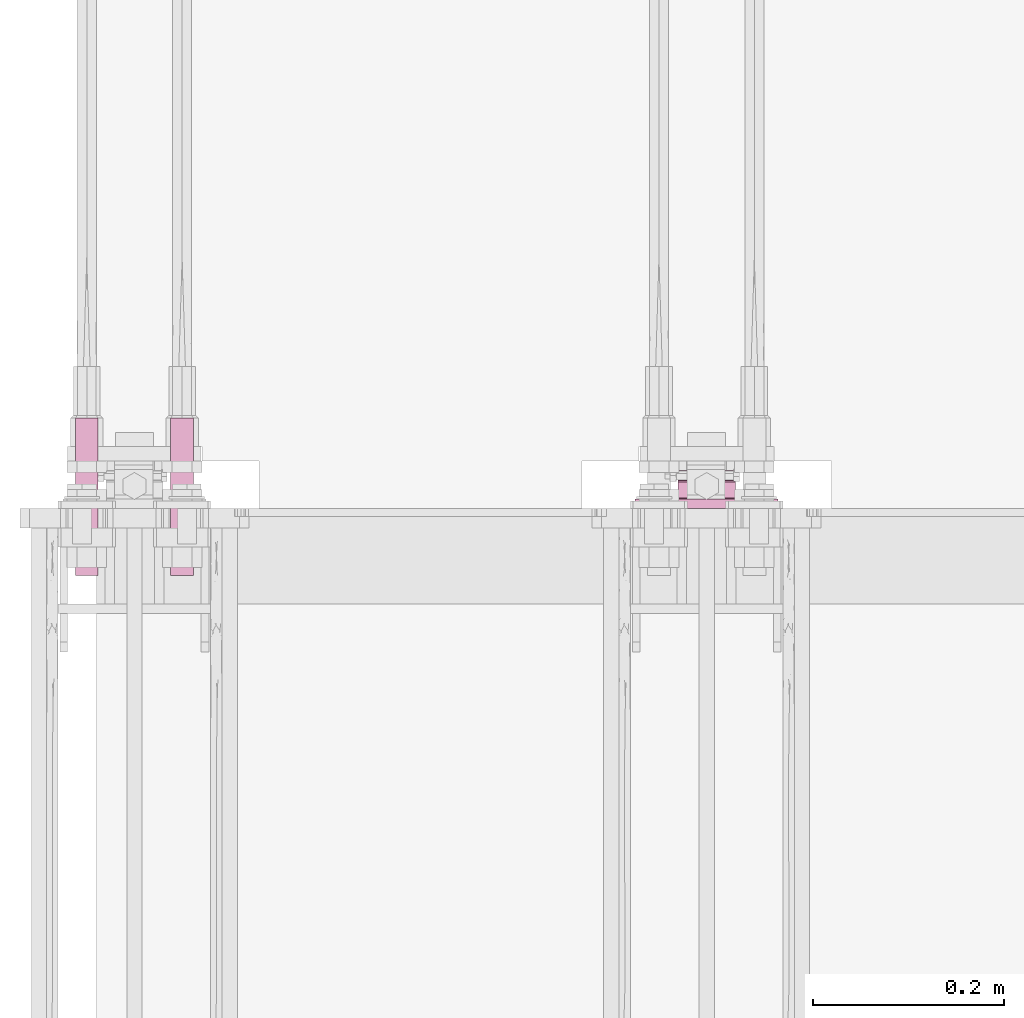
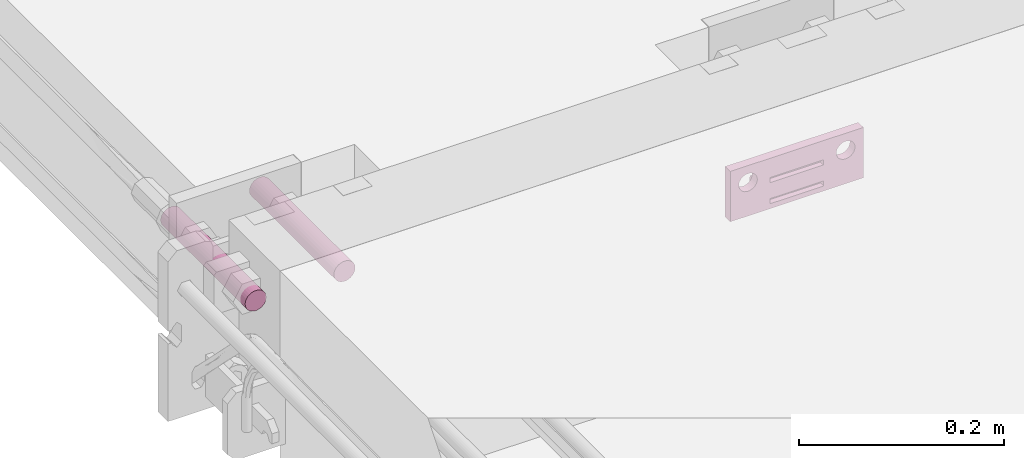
# One storey, part 11 of 17: 3 furnishings.
"""IFC2X3 building model written with IfcOpenShell, lengths in metres."""

from ifc_helpers import new_model, entity, si_unit, converted_unit, derived_unit, direction, frame, frame_2d, origin, place, context, subcontext, project, spatial, polyline, circle_curve, parameter, trimmed, segment, composite_curve, circle, outline, extrude, source, transform, mapped, material, type_object, type_shapes, element, save


model = new_model("IFC2X3")

# Units and contexts
model_context = context("Model", 3, precision=1e-05, world=origin(), true_north=direction((6.123031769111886e-17, 1.0)))
plan_context = context("Plan", 3, precision=1e-05, world=origin(), true_north=direction((6.123031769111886e-17, 1.0)))
body_context = subcontext(model_context, "Body", "Model", "MODEL_VIEW")
ifc_project = project(units=[si_unit("LENGTHUNIT", "METRE"), si_unit("AREAUNIT", "SQUARE_METRE"), converted_unit("PLANEANGLEUNIT", "DEGREE", entity("IfcPlaneAngleMeasure", 0.017453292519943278), si_unit("PLANEANGLEUNIT", "RADIAN"), dimensions=[0, 0, 0, 0, 0, 0, 0]), si_unit("VOLUMEUNIT", "CUBIC_METRE"), derived_unit("THERMALTRANSMITTANCEUNIT", [(si_unit("MASSUNIT", "GRAM", prefix="KILO"), 1), (si_unit("THERMODYNAMICTEMPERATUREUNIT", "KELVIN"), -1), (si_unit("TIMEUNIT", "SECOND"), -3)]), derived_unit("USERDEFINED", [(si_unit("MASSUNIT", "GRAM", prefix="KILO"), 1), (si_unit("THERMODYNAMICTEMPERATUREUNIT", "KELVIN"), -1), (si_unit("TIMEUNIT", "SECOND"), -2)]), derived_unit("THERMALRESISTANCEUNIT", [(si_unit("MASSUNIT", "GRAM", prefix="KILO"), -1), (si_unit("TIMEUNIT", "SECOND"), 3), (si_unit("THERMODYNAMICTEMPERATUREUNIT", "KELVIN"), 1)]), si_unit("PRESSUREUNIT", "PASCAL"), derived_unit("MASSDENSITYUNIT", [(si_unit("MASSUNIT", "GRAM", prefix="KILO"), 1), (si_unit("LENGTHUNIT", "METRE"), -3)]), derived_unit("VAPORPERMEABILITYUNIT", [(si_unit("LENGTHUNIT", "METRE"), -1), (si_unit("TIMEUNIT", "SECOND"), 1)]), derived_unit("USERDEFINED", [(si_unit("MASSUNIT", "GRAM", prefix="KILO"), 1), (si_unit("TIMEUNIT", "SECOND"), -3), (si_unit("LENGTHUNIT", "METRE"), 3), (si_unit("ELECTRICCURRENTUNIT", "AMPERE"), -2)])], contexts=[model_context, plan_context])

# Site, building, storey
site_placement = place(None, origin())
site = spatial("IfcSite", under=ifc_project, at=site_placement, Name="Default", CompositionType="ELEMENT")
building_placement = place(site_placement, origin())
building = spatial("IfcBuilding", under=site, at=building_placement, CompositionType="ELEMENT")
storey_placement = place(building_placement, origin())
storey = spatial("IfcBuildingStorey", under=building, at=storey_placement, Name="L0", CompositionType="ELEMENT", Elevation=0.0)

# Furnishings
ifc_material = material(Name="REC_Acero, S 275JR (Zincado)")
furniture_type_1 = type_object("IfcFurnitureType", Name="REC_FBAIGCEQ:FBAIGCEQ", AssemblyPlace="NOTDEFINED", material=ifc_material)
shared_shape_1 = source(origin(), body_context, "Body", "SweptSolid", [
    extrude(outline(composite_curve([segment(polyline([(-0.005276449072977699, -0.016578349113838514), (0.013723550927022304, -0.016578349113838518)]), True, "CONTINUOUS"), segment(polyline([(0.01372355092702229, -0.016578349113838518), (0.013723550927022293, -0.010578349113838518)]), True, "CONTINUOUS"), segment(polyline([(0.013723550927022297, -0.010578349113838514), (0.0197235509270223, -0.010578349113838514)]), True, "CONTINUOUS"), segment(polyline([(0.0197235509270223, -0.010578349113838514), (0.0197235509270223, -0.006578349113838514)]), True, "CONTINUOUS"), segment(polyline([(0.019723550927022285, -0.00657834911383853), (0.014744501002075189, -0.005535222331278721)]), True, "CONTINUOUS"), segment(trimmed(circle_curve(frame_2d((0.014436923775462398, -0.007003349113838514), x_axis=(-1.0, 0.0)), 0.0015000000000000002), [parameter(258.1674870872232)], [parameter(288.1948723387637)], True, "PARAMETER"), True, "CONTINUOUS"), segment(trimmed(circle_curve(frame_2d((0.007723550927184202, 0.013421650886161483), x_axis=(-1.0, 0.0)), 0.02), [parameter(71.80512766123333)], [parameter(108.1948723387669)], True, "PARAMETER"), False, "CONTINUOUS"), segment(polyline([(0.0014785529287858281, -0.005578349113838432), (-0.003149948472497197, -0.004057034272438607)]), True, "CONTINUOUS"), segment(trimmed(circle_curve(frame_2d((-0.0012764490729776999, 0.001642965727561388), x_axis=(-1.0, 0.0)), 0.006000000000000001), [parameter(0.0)], [parameter(71.80512766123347)], True, "PARAMETER"), False, "CONTINUOUS"), segment(polyline([(-0.007276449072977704, 0.0016429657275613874), (-0.007276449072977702, 0.00875220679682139)]), True, "CONTINUOUS"), segment(trimmed(circle_curve(frame_2d((-0.004276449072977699, 0.008752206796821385), x_axis=(-1.0, 0.0)), 0.0030000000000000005), [parameter(290.0)], [parameter(0.0)], True, "PARAMETER"), False, "CONTINUOUS"), segment(polyline([(-0.005302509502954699, 0.011571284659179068), (-0.0015924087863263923, 0.012921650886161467)]), True, "CONTINUOUS"), segment(trimmed(circle_curve(frame_2d((-0.0022764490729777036, 0.014801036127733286), x_axis=(-1.0, 0.0)), 0.002), [parameter(109.99999999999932)], [parameter(180.0000000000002)], True, "PARAMETER"), True, "CONTINUOUS"), segment(polyline([(-0.00027644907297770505, 0.014801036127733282), (-0.0002764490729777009, 0.019421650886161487)]), True, "CONTINUOUS"), segment(trimmed(circle_curve(frame_2d((-0.004276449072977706, 0.019421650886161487), x_axis=(-1.0, 0.0)), 0.004), [parameter(179.9999999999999)], [parameter(269.9999999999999)], True, "PARAMETER"), True, "CONTINUOUS"), segment(polyline([(-0.004276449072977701, 0.023421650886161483), (-0.017276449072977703, 0.023421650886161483)]), True, "CONTINUOUS"), segment(polyline([(-0.017276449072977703, 0.023421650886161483), (-0.0172764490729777, -0.006578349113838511)]), True, "CONTINUOUS"), segment(polyline([(-0.017276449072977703, -0.006578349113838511), (-0.0112764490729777, -0.006578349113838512)]), True, "CONTINUOUS"), segment(polyline([(-0.011276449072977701, -0.006578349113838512), (-0.011276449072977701, -0.010578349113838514)]), True, "CONTINUOUS"), segment(polyline([(-0.011276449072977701, -0.010578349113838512), (-0.005276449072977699, -0.01057834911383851)]), True, "CONTINUOUS"), segment(polyline([(-0.005276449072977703, -0.010578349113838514), (-0.0052764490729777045, -0.016578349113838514)]), True, "CONTINUOUS")], self_intersect=False)), frame((0.0, 0.01727644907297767, 0.01657834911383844), z_axis=(1.0, 0.0, 0.0), x_axis=(0.0, 1.0, 0.0)), (0.0, 0.0, 1.0), 0.015),
    extrude(outline(composite_curve([segment(polyline([(-0.005276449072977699, -0.016578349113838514), (0.013723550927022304, -0.016578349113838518)]), True, "CONTINUOUS"), segment(polyline([(0.01372355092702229, -0.016578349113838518), (0.013723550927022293, -0.010578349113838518)]), True, "CONTINUOUS"), segment(polyline([(0.013723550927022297, -0.010578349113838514), (0.0197235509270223, -0.010578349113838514)]), True, "CONTINUOUS"), segment(polyline([(0.0197235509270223, -0.010578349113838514), (0.0197235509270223, -0.006578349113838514)]), True, "CONTINUOUS"), segment(polyline([(0.019723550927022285, -0.00657834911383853), (0.014744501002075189, -0.005535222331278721)]), True, "CONTINUOUS"), segment(trimmed(circle_curve(frame_2d((0.014436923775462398, -0.007003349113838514), x_axis=(-1.0, 0.0)), 0.0015000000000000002), [parameter(258.1674870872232)], [parameter(288.1948723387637)], True, "PARAMETER"), True, "CONTINUOUS"), segment(trimmed(circle_curve(frame_2d((0.007723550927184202, 0.013421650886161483), x_axis=(-1.0, 0.0)), 0.02), [parameter(71.80512766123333)], [parameter(108.1948723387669)], True, "PARAMETER"), False, "CONTINUOUS"), segment(polyline([(0.0014785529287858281, -0.005578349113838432), (-0.003149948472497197, -0.004057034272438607)]), True, "CONTINUOUS"), segment(trimmed(circle_curve(frame_2d((-0.0012764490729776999, 0.001642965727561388), x_axis=(-1.0, 0.0)), 0.006000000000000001), [parameter(0.0)], [parameter(71.80512766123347)], True, "PARAMETER"), False, "CONTINUOUS"), segment(polyline([(-0.007276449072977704, 0.0016429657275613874), (-0.007276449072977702, 0.00875220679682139)]), True, "CONTINUOUS"), segment(trimmed(circle_curve(frame_2d((-0.004276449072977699, 0.008752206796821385), x_axis=(-1.0, 0.0)), 0.0030000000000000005), [parameter(290.0)], [parameter(0.0)], True, "PARAMETER"), False, "CONTINUOUS"), segment(polyline([(-0.005302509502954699, 0.011571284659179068), (-0.0015924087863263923, 0.012921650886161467)]), True, "CONTINUOUS"), segment(trimmed(circle_curve(frame_2d((-0.0022764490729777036, 0.014801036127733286), x_axis=(-1.0, 0.0)), 0.002), [parameter(109.99999999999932)], [parameter(180.0000000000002)], True, "PARAMETER"), True, "CONTINUOUS"), segment(polyline([(-0.00027644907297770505, 0.014801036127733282), (-0.0002764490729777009, 0.019421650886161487)]), True, "CONTINUOUS"), segment(trimmed(circle_curve(frame_2d((-0.004276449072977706, 0.019421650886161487), x_axis=(-1.0, 0.0)), 0.004), [parameter(179.9999999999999)], [parameter(269.9999999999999)], True, "PARAMETER"), True, "CONTINUOUS"), segment(polyline([(-0.004276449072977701, 0.023421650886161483), (-0.017276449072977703, 0.023421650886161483)]), True, "CONTINUOUS"), segment(polyline([(-0.017276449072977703, 0.023421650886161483), (-0.0172764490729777, -0.006578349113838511)]), True, "CONTINUOUS"), segment(polyline([(-0.017276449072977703, -0.006578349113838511), (-0.0112764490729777, -0.006578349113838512)]), True, "CONTINUOUS"), segment(polyline([(-0.011276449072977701, -0.006578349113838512), (-0.011276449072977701, -0.010578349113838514)]), True, "CONTINUOUS"), segment(polyline([(-0.011276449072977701, -0.010578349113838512), (-0.005276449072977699, -0.01057834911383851)]), True, "CONTINUOUS"), segment(polyline([(-0.005276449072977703, -0.010578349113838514), (-0.0052764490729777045, -0.016578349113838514)]), True, "CONTINUOUS")], self_intersect=False)), frame((-0.030000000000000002, 0.01727644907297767, 0.01657834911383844), z_axis=(1.0, 0.0, 0.0), x_axis=(0.0, 1.0, 0.0)), (0.0, 0.0, 1.0), 0.015),
    extrude(outline(composite_curve([segment(polyline([(-0.005276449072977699, -0.016578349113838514), (0.013723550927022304, -0.016578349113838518)]), True, "CONTINUOUS"), segment(polyline([(0.01372355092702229, -0.016578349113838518), (0.013723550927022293, -0.010578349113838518)]), True, "CONTINUOUS"), segment(polyline([(0.013723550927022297, -0.010578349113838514), (0.0197235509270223, -0.010578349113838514)]), True, "CONTINUOUS"), segment(polyline([(0.0197235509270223, -0.010578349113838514), (0.0197235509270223, -0.006578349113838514)]), True, "CONTINUOUS"), segment(polyline([(0.019723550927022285, -0.00657834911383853), (0.014744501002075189, -0.005535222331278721)]), True, "CONTINUOUS"), segment(trimmed(circle_curve(frame_2d((0.014436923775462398, -0.007003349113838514), x_axis=(-1.0, 0.0)), 0.0015000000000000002), [parameter(258.1674870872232)], [parameter(288.1948723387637)], True, "PARAMETER"), True, "CONTINUOUS"), segment(trimmed(circle_curve(frame_2d((0.007723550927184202, 0.013421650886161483), x_axis=(-1.0, 0.0)), 0.02), [parameter(71.80512766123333)], [parameter(108.1948723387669)], True, "PARAMETER"), False, "CONTINUOUS"), segment(polyline([(0.0014785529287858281, -0.005578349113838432), (-0.003149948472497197, -0.004057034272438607)]), True, "CONTINUOUS"), segment(trimmed(circle_curve(frame_2d((-0.0012764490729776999, 0.001642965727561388), x_axis=(-1.0, 0.0)), 0.006000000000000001), [parameter(0.0)], [parameter(71.80512766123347)], True, "PARAMETER"), False, "CONTINUOUS"), segment(polyline([(-0.007276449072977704, 0.0016429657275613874), (-0.007276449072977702, 0.00875220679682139)]), True, "CONTINUOUS"), segment(trimmed(circle_curve(frame_2d((-0.004276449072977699, 0.008752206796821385), x_axis=(-1.0, 0.0)), 0.0030000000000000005), [parameter(290.0)], [parameter(0.0)], True, "PARAMETER"), False, "CONTINUOUS"), segment(polyline([(-0.005302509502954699, 0.011571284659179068), (-0.0015924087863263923, 0.012921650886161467)]), True, "CONTINUOUS"), segment(trimmed(circle_curve(frame_2d((-0.0022764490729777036, 0.014801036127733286), x_axis=(-1.0, 0.0)), 0.002), [parameter(109.99999999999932)], [parameter(180.0000000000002)], True, "PARAMETER"), True, "CONTINUOUS"), segment(polyline([(-0.00027644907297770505, 0.014801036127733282), (-0.0002764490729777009, 0.019421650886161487)]), True, "CONTINUOUS"), segment(trimmed(circle_curve(frame_2d((-0.004276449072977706, 0.019421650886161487), x_axis=(-1.0, 0.0)), 0.004), [parameter(179.9999999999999)], [parameter(269.9999999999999)], True, "PARAMETER"), True, "CONTINUOUS"), segment(polyline([(-0.004276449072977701, 0.023421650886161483), (-0.017276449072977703, 0.023421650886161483)]), True, "CONTINUOUS"), segment(polyline([(-0.017276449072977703, 0.023421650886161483), (-0.0172764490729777, -0.006578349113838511)]), True, "CONTINUOUS"), segment(polyline([(-0.017276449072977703, -0.006578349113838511), (-0.0112764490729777, -0.006578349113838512)]), True, "CONTINUOUS"), segment(polyline([(-0.011276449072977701, -0.006578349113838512), (-0.011276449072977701, -0.010578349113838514)]), True, "CONTINUOUS"), segment(polyline([(-0.011276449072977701, -0.010578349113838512), (-0.005276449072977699, -0.01057834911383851)]), True, "CONTINUOUS"), segment(polyline([(-0.005276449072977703, -0.010578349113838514), (-0.0052764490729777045, -0.016578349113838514)]), True, "CONTINUOUS")], self_intersect=False)), frame((0.015000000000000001, 0.01727644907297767, 0.01657834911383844), z_axis=(1.0, 0.0, 0.0), x_axis=(0.0, 1.0, 0.0)), (0.0, 0.0, 1.0), 0.015),
    extrude(outline(composite_curve([segment(polyline([(-0.005276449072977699, -0.016578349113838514), (0.013723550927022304, -0.016578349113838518)]), True, "CONTINUOUS"), segment(polyline([(0.01372355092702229, -0.016578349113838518), (0.013723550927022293, -0.010578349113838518)]), True, "CONTINUOUS"), segment(polyline([(0.013723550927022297, -0.010578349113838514), (0.0197235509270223, -0.010578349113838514)]), True, "CONTINUOUS"), segment(polyline([(0.0197235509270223, -0.010578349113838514), (0.0197235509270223, -0.006578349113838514)]), True, "CONTINUOUS"), segment(polyline([(0.019723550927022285, -0.00657834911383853), (0.014744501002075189, -0.005535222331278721)]), True, "CONTINUOUS"), segment(trimmed(circle_curve(frame_2d((0.014436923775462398, -0.007003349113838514), x_axis=(-1.0, 0.0)), 0.0015000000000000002), [parameter(258.1674870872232)], [parameter(288.1948723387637)], True, "PARAMETER"), True, "CONTINUOUS"), segment(trimmed(circle_curve(frame_2d((0.007723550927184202, 0.013421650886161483), x_axis=(-1.0, 0.0)), 0.02), [parameter(71.80512766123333)], [parameter(108.1948723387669)], True, "PARAMETER"), False, "CONTINUOUS"), segment(polyline([(0.0014785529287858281, -0.005578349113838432), (-0.003149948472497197, -0.004057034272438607)]), True, "CONTINUOUS"), segment(trimmed(circle_curve(frame_2d((-0.0012764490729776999, 0.001642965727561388), x_axis=(-1.0, 0.0)), 0.006000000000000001), [parameter(0.0)], [parameter(71.80512766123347)], True, "PARAMETER"), False, "CONTINUOUS"), segment(polyline([(-0.007276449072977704, 0.0016429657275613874), (-0.007276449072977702, 0.00875220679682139)]), True, "CONTINUOUS"), segment(trimmed(circle_curve(frame_2d((-0.004276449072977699, 0.008752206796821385), x_axis=(-1.0, 0.0)), 0.0030000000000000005), [parameter(290.0)], [parameter(0.0)], True, "PARAMETER"), False, "CONTINUOUS"), segment(polyline([(-0.005302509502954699, 0.011571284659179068), (-0.0015924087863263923, 0.012921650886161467)]), True, "CONTINUOUS"), segment(trimmed(circle_curve(frame_2d((-0.0022764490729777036, 0.014801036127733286), x_axis=(-1.0, 0.0)), 0.002), [parameter(109.99999999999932)], [parameter(180.0000000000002)], True, "PARAMETER"), True, "CONTINUOUS"), segment(polyline([(-0.00027644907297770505, 0.014801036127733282), (-0.0002764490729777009, 0.019421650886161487)]), True, "CONTINUOUS"), segment(trimmed(circle_curve(frame_2d((-0.004276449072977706, 0.019421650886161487), x_axis=(-1.0, 0.0)), 0.004), [parameter(179.9999999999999)], [parameter(269.9999999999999)], True, "PARAMETER"), True, "CONTINUOUS"), segment(polyline([(-0.004276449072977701, 0.023421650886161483), (-0.017276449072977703, 0.023421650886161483)]), True, "CONTINUOUS"), segment(polyline([(-0.017276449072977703, 0.023421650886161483), (-0.0172764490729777, -0.006578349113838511)]), True, "CONTINUOUS"), segment(polyline([(-0.017276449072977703, -0.006578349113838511), (-0.0112764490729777, -0.006578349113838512)]), True, "CONTINUOUS"), segment(polyline([(-0.011276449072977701, -0.006578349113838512), (-0.011276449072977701, -0.010578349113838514)]), True, "CONTINUOUS"), segment(polyline([(-0.011276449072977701, -0.010578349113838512), (-0.005276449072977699, -0.01057834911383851)]), True, "CONTINUOUS"), segment(polyline([(-0.005276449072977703, -0.010578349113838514), (-0.0052764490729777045, -0.016578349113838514)]), True, "CONTINUOUS")], self_intersect=False)), frame((-0.015000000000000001, 0.01727644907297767, 0.01657834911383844), z_axis=(1.0, 0.0, 0.0), x_axis=(0.0, 1.0, 0.0)), (0.0, 0.0, 1.0), 0.015),
    extrude(outline(polyline([(-0.03, -0.07500000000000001), (0.03, -0.07500000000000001), (0.03, 0.07500000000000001), (-0.03, 0.07500000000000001), (-0.03, -0.07500000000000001)]), holes=[polyline([(0.02415000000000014, -0.030149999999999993), (-0.007149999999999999, -0.030149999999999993), (-0.007149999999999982, 0.03015000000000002), (0.024150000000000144, 0.030150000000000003), (0.02415000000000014, -0.030149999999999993)]), composite_curve([segment(trimmed(circle_curve(frame_2d((-0.010000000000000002, 0.055), x_axis=(0.0, 1.0)), 0.0105), [parameter(179.9999999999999)], [parameter(359.99999999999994)], True, "PARAMETER"), False, "CONTINUOUS"), segment(trimmed(circle_curve(frame_2d((-0.010000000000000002, 0.055), x_axis=(0.0, 1.0)), 0.0105), [parameter(0.0)], [parameter(180.00000000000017)], True, "PARAMETER"), False, "CONTINUOUS")], self_intersect=False), composite_curve([segment(trimmed(circle_curve(frame_2d((-0.010000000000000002, -0.055), x_axis=(0.0, 1.0)), 0.0105), [parameter(179.9999999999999)], [parameter(359.99999999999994)], True, "PARAMETER"), False, "CONTINUOUS"), segment(trimmed(circle_curve(frame_2d((-0.010000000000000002, -0.055), x_axis=(0.0, 1.0)), 0.0105), [parameter(0.0)], [parameter(180.00000000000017)], True, "PARAMETER"), False, "CONTINUOUS")], self_intersect=False)]), frame((0.0, 0.029999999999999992, 0.0), z_axis=(0.0, 0.0, 1.0), x_axis=(0.0, -1.0, 0.0)), (0.0, 0.0, 1.0), 0.01),
])
type_shapes(furniture_type_1, [shared_shape_1])
furnishing_placement = place(storey_placement, frame((5.785680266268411, 14.794530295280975, -0.20000000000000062), z_axis=(0.0, 1.0, 0.0), x_axis=(-1.0, 0.0, 0.0)))
element("IfcFurnishingElement", 1, at=furnishing_placement, inside=storey, type_object=furniture_type_1, material=ifc_material, Name="REC_FBAIGCEQ:FBAIGCEQ", ObjectType="REC_FBAIGCEQ:FBAIGCEQ", context=body_context, shape_type="MappedRepresentation", body=[
    mapped(shared_shape_1, transform((0.0, 0.0, 0.0), scale=1.0)),
])
furniture_type_2 = type_object("IfcFurnitureType", Name="REC__VRM24165C88EQM:VRM24165C88EQM", AssemblyPlace="NOTDEFINED", material=ifc_material)
shared_shape_2 = source(origin(), body_context, "Body", "SweptSolid", [
    extrude(circle(Radius=0.012000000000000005, at=frame_2d((0.0, -1.9386534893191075e-17), x_axis=(1.0, 0.0))), origin(), (0.0, 0.0, 1.0), 0.165),
])
type_shapes(furniture_type_2, [shared_shape_2])
for number, where, z_axis, x_axis in (
    (2, (5.135640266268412, 14.889530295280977, -0.050000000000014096), (0.0, -1.0, 0.0), (1.0, 0.0, 0.0)),
    (3, (5.235640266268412, 14.889530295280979, -0.050000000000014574), (0.0, -1.0, 0.0), (1.0, 0.0, 0.0)),
):
    element("IfcFurnishingElement", number, at=place(storey_placement, frame(where, z_axis=z_axis, x_axis=x_axis)), inside=storey, type_object=furniture_type_2, material=ifc_material, Name="REC__VRM24165C88EQM:VRM24165C88EQM", ObjectType="REC__VRM24165C88EQM:VRM24165C88EQM", context=body_context, shape_type="MappedRepresentation", body=[
        mapped(shared_shape_2, transform((0.0, 0.0, 0.0), scale=1.0)),
    ])

save(model, "model.ifc")
